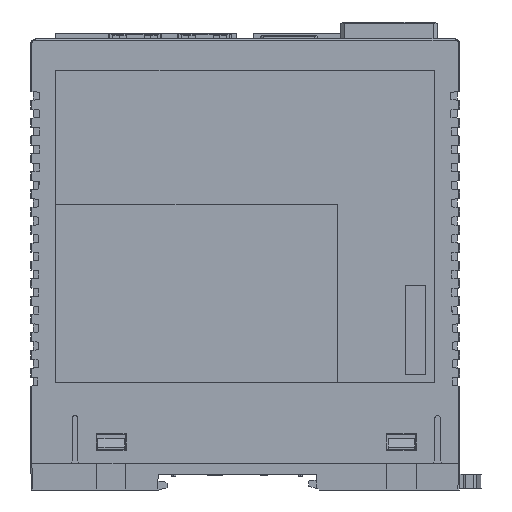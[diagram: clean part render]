
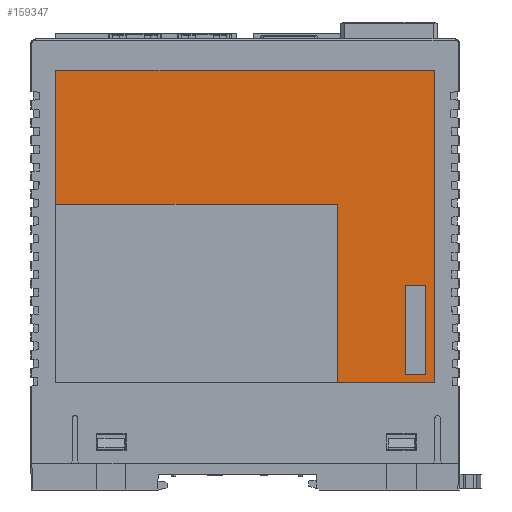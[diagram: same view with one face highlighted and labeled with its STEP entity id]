
A CAD part, left-side view. The second image highlights one B-rep face of the part: STEP entity #159347.
In plain terms, the highlighted planar face has unit normal (-1, 0, 0).
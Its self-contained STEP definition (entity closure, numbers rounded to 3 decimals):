
#3002 = DIRECTION ( 'NONE',  ( 0., -1., 0. ) ) ;
#11438 = VERTEX_POINT ( 'NONE', #301183 ) ;
#18400 = VERTEX_POINT ( 'NONE', #126045 ) ;
#23222 = EDGE_LOOP ( 'NONE', ( #168316, #243561, #133659, #38701 ) ) ;
#31879 = PLANE ( 'NONE',  #66267 ) ;
#38701 = ORIENTED_EDGE ( 'NONE', *, *, #116534, .F. ) ;
#41949 = EDGE_CURVE ( 'NONE', #294764, #289709, #71752, .T. ) ;
#43604 = VERTEX_POINT ( 'NONE', #48180 ) ;
#43886 = CARTESIAN_POINT ( 'NONE',  ( -35.9, -42.4, 88. ) ) ;
#48180 = CARTESIAN_POINT ( 'NONE',  ( -35.9, -35.9, 39.8 ) ) ;
#55389 = EDGE_CURVE ( 'NONE', #289709, #236680, #90060, .T. ) ;
#55997 = EDGE_CURVE ( 'NONE', #245932, #43604, #261940, .T. ) ;
#56729 = ORIENTED_EDGE ( 'NONE', *, *, #131076, .T. ) ;
#62286 = EDGE_CURVE ( 'NONE', #236680, #112015, #71982, .T. ) ;
#66267 = AXIS2_PLACEMENT_3D ( 'NONE', #242832, #126080, #289908 ) ;
#66532 = LINE ( 'NONE', #192064, #183776 ) ;
#66706 = CARTESIAN_POINT ( 'NONE',  ( -35.9, 42.39, 18.01 ) ) ;
#68946 = LINE ( 'NONE', #197764, #193543 ) ;
#71752 = LINE ( 'NONE', #246509, #126677 ) ;
#71982 = LINE ( 'NONE', #281140, #266158 ) ;
#72633 = CARTESIAN_POINT ( 'NONE',  ( -35.9, 42.39, 58.01 ) ) ;
#75328 = DIRECTION ( 'NONE',  ( 0., 0., -1. ) ) ;
#78726 = CARTESIAN_POINT ( 'NONE',  ( -35.9, -42.4, 18. ) ) ;
#83309 = VECTOR ( 'NONE', #87270, 1000. ) ;
#86534 = EDGE_LOOP ( 'NONE', ( #97894, #200885, #91996, #148623 ) ) ;
#87270 = DIRECTION ( 'NONE',  ( 0., 1., 0. ) ) ;
#90060 = LINE ( 'NONE', #182408, #174436 ) ;
#91860 = DIRECTION ( 'NONE',  ( 0., 1., 0. ) ) ;
#91996 = ORIENTED_EDGE ( 'NONE', *, *, #299830, .T. ) ;
#92246 = CARTESIAN_POINT ( 'NONE',  ( -35.9, 42.39, 58.01 ) ) ;
#96497 = CARTESIAN_POINT ( 'NONE',  ( -35.9, -40.4, 19.8 ) ) ;
#97894 = ORIENTED_EDGE ( 'NONE', *, *, #217953, .T. ) ;
#112015 = VERTEX_POINT ( 'NONE', #43886 ) ;
#113100 = ORIENTED_EDGE ( 'NONE', *, *, #41949, .T. ) ;
#116534 = EDGE_CURVE ( 'NONE', #18400, #245932, #141752, .T. ) ;
#116738 = FACE_BOUND ( 'NONE', #86534, .T. ) ;
#121251 = VERTEX_POINT ( 'NONE', #92246 ) ;
#126045 = CARTESIAN_POINT ( 'NONE',  ( -35.9, -40.4, 19.8 ) ) ;
#126080 = DIRECTION ( 'NONE',  ( -1., 0., 0. ) ) ;
#126677 = VECTOR ( 'NONE', #222875, 1000. ) ;
#131043 = EDGE_LOOP ( 'NONE', ( #113100, #139670, #239019, #56729 ) ) ;
#131076 = EDGE_CURVE ( 'NONE', #112015, #294764, #200544, .T. ) ;
#133257 = DIRECTION ( 'NONE',  ( 0., -1., 0. ) ) ;
#133659 = ORIENTED_EDGE ( 'NONE', *, *, #55997, .F. ) ;
#135390 = VERTEX_POINT ( 'NONE', #150638 ) ;
#139670 = ORIENTED_EDGE ( 'NONE', *, *, #55389, .T. ) ;
#140944 = DIRECTION ( 'NONE',  ( 0., 0., 1. ) ) ;
#141752 = LINE ( 'NONE', #96497, #149094 ) ;
#145204 = CARTESIAN_POINT ( 'NONE',  ( -35.9, 42.39, 18.01 ) ) ;
#147838 = CARTESIAN_POINT ( 'NONE',  ( -35.9, -35.9, 19.8 ) ) ;
#148623 = ORIENTED_EDGE ( 'NONE', *, *, #284422, .T. ) ;
#149094 = VECTOR ( 'NONE', #283858, 1000. ) ;
#150638 = CARTESIAN_POINT ( 'NONE',  ( -35.9, -20.61, 18.01 ) ) ;
#152413 = CARTESIAN_POINT ( 'NONE',  ( -35.9, 42.4, 18. ) ) ;
#156967 = LINE ( 'NONE', #230980, #274149 ) ;
#159347 = ADVANCED_FACE ( 'NONE', ( #241284, #179051, #116738 ), #31879, .T. ) ;
#160150 = CARTESIAN_POINT ( 'NONE',  ( -35.9, -40.4, 39.8 ) ) ;
#168316 = ORIENTED_EDGE ( 'NONE', *, *, #180143, .F. ) ;
#170078 = VECTOR ( 'NONE', #239404, 1000. ) ;
#172376 = EDGE_CURVE ( 'NONE', #135390, #240399, #232316, .T. ) ;
#174436 = VECTOR ( 'NONE', #133257, 1000. ) ;
#175743 = VECTOR ( 'NONE', #3002, 1000. ) ;
#179051 = FACE_BOUND ( 'NONE', #23222, .T. ) ;
#180143 = EDGE_CURVE ( 'NONE', #11438, #18400, #68946, .T. ) ;
#182269 = VERTEX_POINT ( 'NONE', #209522 ) ;
#182408 = CARTESIAN_POINT ( 'NONE',  ( -35.9, 42.4, 18. ) ) ;
#183776 = VECTOR ( 'NONE', #75328, 1000. ) ;
#192064 = CARTESIAN_POINT ( 'NONE',  ( -35.9, -20.61, 58.01 ) ) ;
#193543 = VECTOR ( 'NONE', #221297, 1000. ) ;
#197764 = CARTESIAN_POINT ( 'NONE',  ( -35.9, -35.9, 19.8 ) ) ;
#199602 = VECTOR ( 'NONE', #91860, 1000. ) ;
#200544 = LINE ( 'NONE', #227554, #83309 ) ;
#200885 = ORIENTED_EDGE ( 'NONE', *, *, #172376, .T. ) ;
#209522 = CARTESIAN_POINT ( 'NONE',  ( -35.9, -20.61, 58.01 ) ) ;
#217953 = EDGE_CURVE ( 'NONE', #182269, #135390, #66532, .T. ) ;
#219366 = DIRECTION ( 'NONE',  ( 0., 0., -1. ) ) ;
#221297 = DIRECTION ( 'NONE',  ( 0., -1., 0. ) ) ;
#222875 = DIRECTION ( 'NONE',  ( 0., 0., -1. ) ) ;
#224856 = EDGE_CURVE ( 'NONE', #43604, #11438, #279320, .T. ) ;
#227554 = CARTESIAN_POINT ( 'NONE',  ( -35.9, -42.4, 88. ) ) ;
#228252 = CARTESIAN_POINT ( 'NONE',  ( -35.9, 42.4, 88. ) ) ;
#230980 = CARTESIAN_POINT ( 'NONE',  ( -35.9, 42.39, 58.01 ) ) ;
#232316 = LINE ( 'NONE', #145204, #170078 ) ;
#236680 = VERTEX_POINT ( 'NONE', #78726 ) ;
#239019 = ORIENTED_EDGE ( 'NONE', *, *, #62286, .T. ) ;
#239404 = DIRECTION ( 'NONE',  ( 0., 1., 0. ) ) ;
#240399 = VERTEX_POINT ( 'NONE', #66706 ) ;
#241284 = FACE_OUTER_BOUND ( 'NONE', #131043, .T. ) ;
#242832 = CARTESIAN_POINT ( 'NONE',  ( -35.9, 0., 0. ) ) ;
#243561 = ORIENTED_EDGE ( 'NONE', *, *, #224856, .F. ) ;
#245932 = VERTEX_POINT ( 'NONE', #160150 ) ;
#246509 = CARTESIAN_POINT ( 'NONE',  ( -35.9, 42.4, 88. ) ) ;
#254537 = DIRECTION ( 'NONE',  ( 0., 0., 1. ) ) ;
#261940 = LINE ( 'NONE', #301783, #199602 ) ;
#266158 = VECTOR ( 'NONE', #140944, 1000. ) ;
#272000 = VECTOR ( 'NONE', #219366, 1000. ) ;
#274149 = VECTOR ( 'NONE', #254537, 1000. ) ;
#279320 = LINE ( 'NONE', #147838, #272000 ) ;
#281140 = CARTESIAN_POINT ( 'NONE',  ( -35.9, -42.4, 18. ) ) ;
#283858 = DIRECTION ( 'NONE',  ( 0., 0., 1. ) ) ;
#284422 = EDGE_CURVE ( 'NONE', #121251, #182269, #300278, .T. ) ;
#289709 = VERTEX_POINT ( 'NONE', #152413 ) ;
#289908 = DIRECTION ( 'NONE',  ( 0., 0., 1. ) ) ;
#294764 = VERTEX_POINT ( 'NONE', #228252 ) ;
#299830 = EDGE_CURVE ( 'NONE', #240399, #121251, #156967, .T. ) ;
#300278 = LINE ( 'NONE', #72633, #175743 ) ;
#301183 = CARTESIAN_POINT ( 'NONE',  ( -35.9, -35.9, 19.8 ) ) ;
#301783 = CARTESIAN_POINT ( 'NONE',  ( -35.9, -35.9, 39.8 ) ) ;
